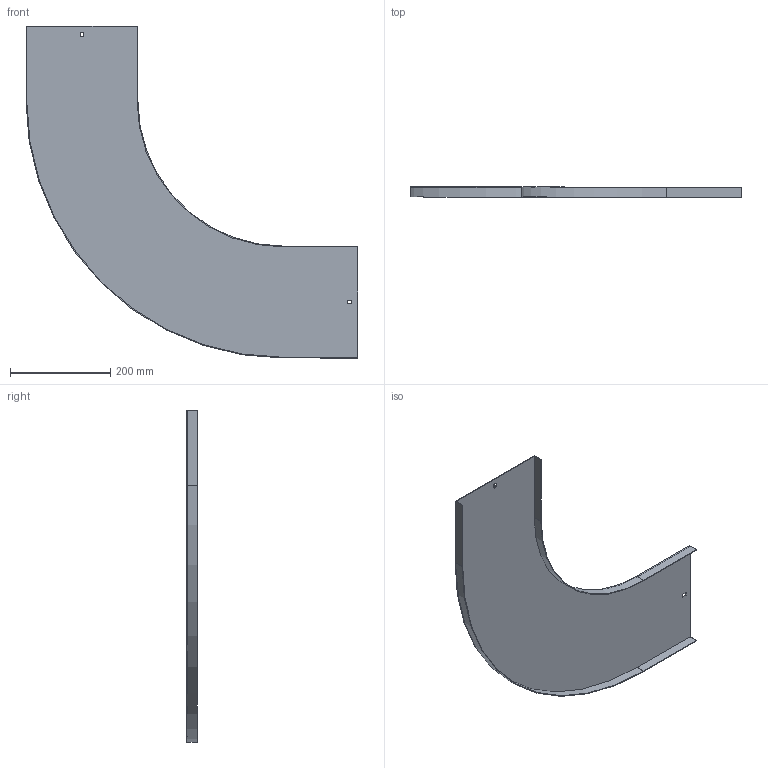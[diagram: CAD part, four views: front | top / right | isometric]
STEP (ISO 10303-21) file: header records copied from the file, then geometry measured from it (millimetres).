
FILE_DESCRIPTION (( 'STEP AP214' ), '1' );
FILE_NAME ('10N3P200.step', '2025-02-21T13:36:31', ( '' ), ( '' ), 'SwSTEP 2.0', 'SolidWorks 2023', '' );
FILE_SCHEMA (( 'AUTOMOTIVE_DESIGN' ));
Length unit declared in the file: millimetre
Products named in the file (1): 10N3P200
Bounding box: 661.5 x 20 x 661.5 mm (x, y, z)
Volume: 361868.7 mm3; surface area: 486149.6 mm2
Topology: 1 solids, 1 shells, 26 faces, 72 edges, 48 vertices
Faces by surface type: plane 22, cylinder 4
Entity records: 855 total; most frequent: CARTESIAN_POINT 147, ORIENTED_EDGE 144, DIRECTION 134, EDGE_CURVE 72, LINE 64, VECTOR 64, VERTEX_POINT 48, AXIS2_PLACEMENT_3D 35
